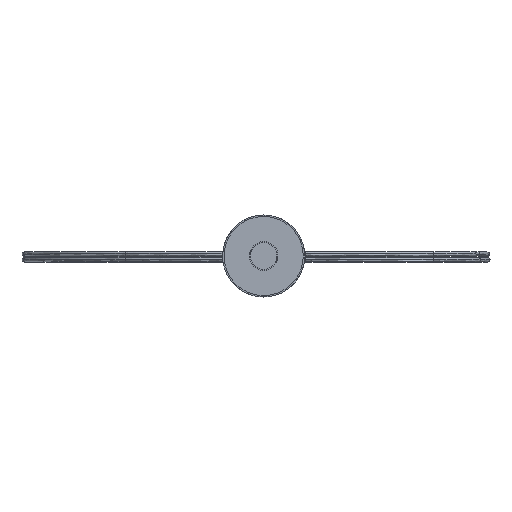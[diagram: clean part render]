
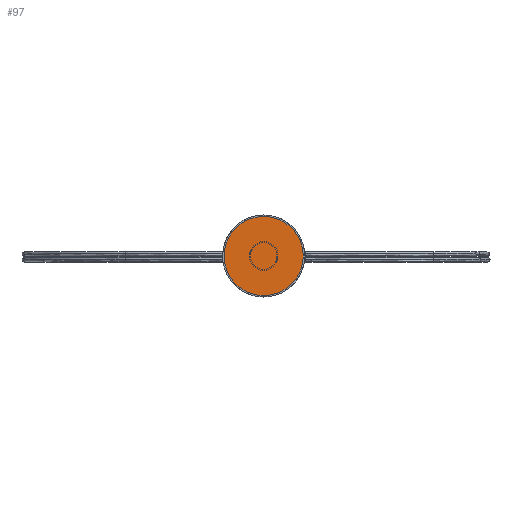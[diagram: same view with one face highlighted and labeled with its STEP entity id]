
A CAD part, top view. The second image highlights one B-rep face of the part: STEP entity #97.
In plain terms, the highlighted planar face has unit normal (0, 0, 1).
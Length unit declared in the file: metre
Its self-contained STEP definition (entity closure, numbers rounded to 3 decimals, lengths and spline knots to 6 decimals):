
#97=ADVANCED_FACE('',(#556),#7062,.T.);
#556=FACE_OUTER_BOUND('',#1016,.T.);
#1016=EDGE_LOOP('',(#1504,#1505));
#1504=ORIENTED_EDGE('',*,*,#3885,.F.);
#1505=ORIENTED_EDGE('',*,*,#3884,.F.);
#3884=EDGE_CURVE('',#6293,#6292,#6036,.T.);
#3885=EDGE_CURVE('',#6292,#6293,#6037,.T.);
#6036=(
BOUNDED_CURVE()
B_SPLINE_CURVE(2,(#8147,#8148,#8149,#8150,#8151),.UNSPECIFIED.,.F.,.F.)
B_SPLINE_CURVE_WITH_KNOTS((3,2,3),(-346.51767,-259.888252,
-173.258835),.UNSPECIFIED.)
CURVE()
GEOMETRIC_REPRESENTATION_ITEM()
RATIONAL_B_SPLINE_CURVE((1.,0.707,1.,0.707,1.))
REPRESENTATION_ITEM('')
);
#6037=(
BOUNDED_CURVE()
B_SPLINE_CURVE(2,(#8152,#8153,#8154,#8155,#8156),.UNSPECIFIED.,.F.,.F.)
B_SPLINE_CURVE_WITH_KNOTS((3,2,3),(-173.258835,-86.629417,
0.),.UNSPECIFIED.)
CURVE()
GEOMETRIC_REPRESENTATION_ITEM()
RATIONAL_B_SPLINE_CURVE((1.,0.707,1.,0.707,1.))
REPRESENTATION_ITEM('')
);
#6292=VERTEX_POINT('',#8129);
#6293=VERTEX_POINT('',#8130);
#7062=PLANE('',#7507);
#7507=AXIS2_PLACEMENT_3D('',#8096,#7786,$);
#7786=DIRECTION('',(0.,0.,1.));
#8096=CARTESIAN_POINT('',(68.7,-68.7,605.295326));
#8129=CARTESIAN_POINT('',(-55.15,0.,605.295326));
#8130=CARTESIAN_POINT('',(55.15,0.,605.295326));
#8147=CARTESIAN_POINT('',(55.15,0.,605.295326));
#8148=CARTESIAN_POINT('',(55.15,-55.15,605.295326));
#8149=CARTESIAN_POINT('',(0.,-55.15,605.295326));
#8150=CARTESIAN_POINT('',(-55.15,-55.15,605.295326));
#8151=CARTESIAN_POINT('',(-55.15,0.,605.295326));
#8152=CARTESIAN_POINT('',(-55.15,0.,605.295326));
#8153=CARTESIAN_POINT('',(-55.15,55.15,605.295326));
#8154=CARTESIAN_POINT('',(0.,55.15,605.295326));
#8155=CARTESIAN_POINT('',(55.15,55.15,605.295326));
#8156=CARTESIAN_POINT('',(55.15,0.,605.295326));
